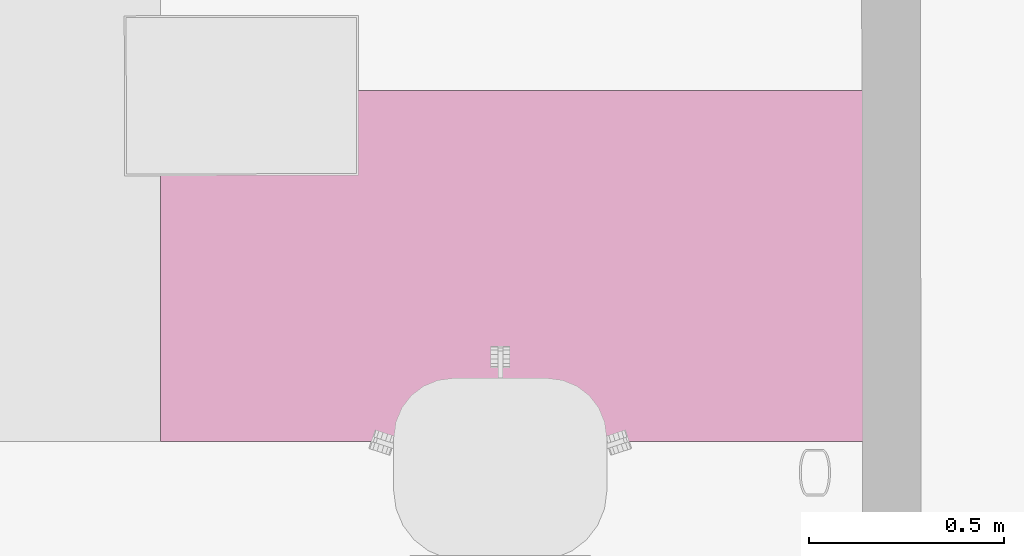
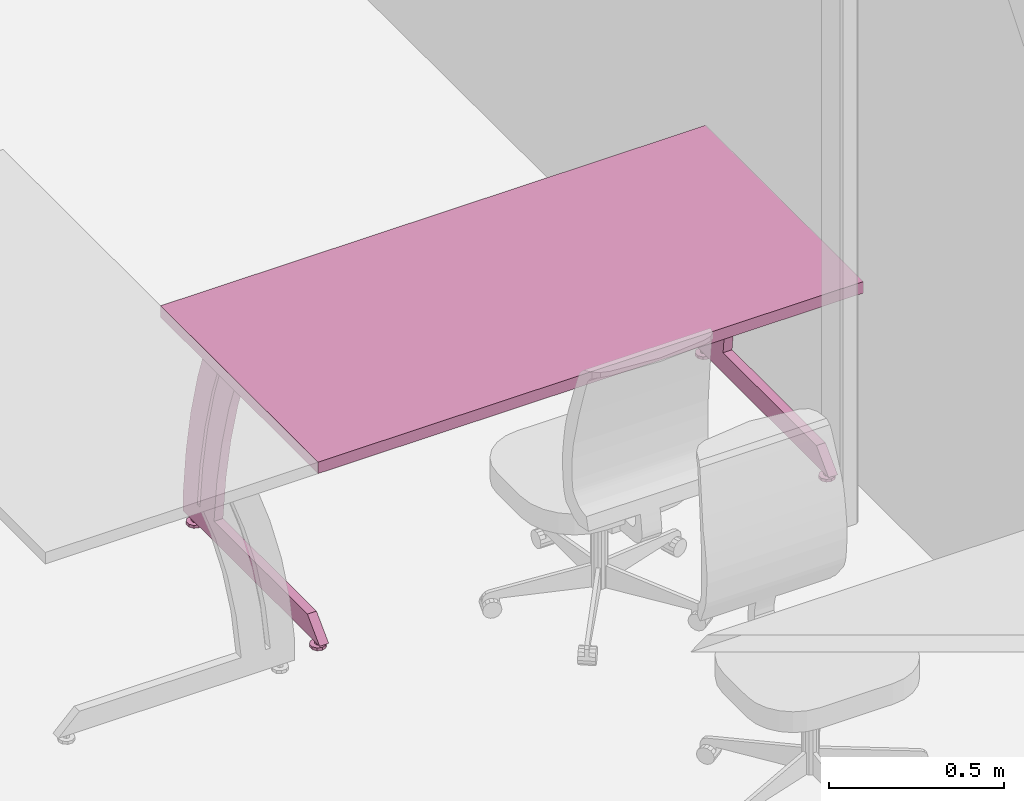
# One storey, part 117 of 128: 1 furnishing.
"""IFC2X3 building model written with IfcOpenShell, lengths in metres."""

import ifcopenshell
import ifcopenshell.guid

model = None  # the IFC model being written
_history = None  # IfcOwnerHistory: only IFC2X3 demands one
_inside = {}  # id of a spatial element -> (the spatial element, [elements in it])
_under = {}  # id of a project, library or spatial element -> (it, [spatial elements below it])
_declared = {}  # id of a project -> (the project, [libraries it declares])
_typed = {}  # id of a type object -> (the type object, [elements of that type])
_made_of = {}  # id of a material, layer set ... -> (it, [elements and type objects made of it])


def new_model(schema):
    """Start an empty IFC model of exactly this schema.

    Asked for "IFC4X3", IfcOpenShell would pick the latest addendum, in which some entities
    have other attributes; the version numbers below select the first issue.
    IFC2X3 requires an IfcOwnerHistory on every rooted entity: one is made here for all.
    """
    global model, _history
    if schema == "IFC4X3":
        model = ifcopenshell.file(schema_version=(4, 3, 0, 0))
    else:
        model = ifcopenshell.file(schema=schema)
    _inside.clear()
    _under.clear()
    _declared.clear()
    _typed.clear()
    _made_of.clear()
    _history = None
    if model.schema == "IFC2X3":
        org = make("IfcOrganization", Name="unknown")
        user = make(
            "IfcPersonAndOrganization",
            ThePerson=make("IfcPerson", FamilyName="unknown"),
            TheOrganization=org,
        )
        app = make(
            "IfcApplication",
            ApplicationDeveloper=org,
            Version="unknown",
            ApplicationFullName="unknown",
            ApplicationIdentifier="unknown",
        )
        _history = make(
            "IfcOwnerHistory",
            OwningUser=user,
            OwningApplication=app,
            ChangeAction="ADDED",
            CreationDate=0,
        )
    return model


def make(cls, **values):
    """One entity of the class cls with the attributes given. An attribute that is None is left unset."""
    return model.create_entity(
        cls, **{name: value for name, value in values.items() if value is not None}
    )


def entity(cls, *values):
    """Any entity or typed value of the class cls, its attributes in the order of the schema. None: left unset."""
    e = model.create_entity(cls)
    for i, value in enumerate(values):
        if value is not None:
            e[i] = value
    return e


def rooted(cls, **values):
    """An entity with a GlobalId (a new one), such as an element, a storey or a relation."""
    return make(cls, GlobalId=ifcopenshell.guid.new(), OwnerHistory=_history, **values)


def si_unit(unit_type, name, prefix=None):
    """IfcSIUnit, for example si_unit("LENGTHUNIT", "METRE", prefix="MILLI")."""
    return make("IfcSIUnit", UnitType=unit_type, Prefix=prefix, Name=name)


def converted_unit(unit_type, name, factor, base, dimensions=None, offset=None):
    """IfcConversionBasedUnit, such as the inch: factor (a typed value) times the base unit."""
    return make(
        "IfcConversionBasedUnit"
        if offset is None
        else "IfcConversionBasedUnitWithOffset",
        ConversionOffset=offset,
        Dimensions=None
        if dimensions is None
        else entity("IfcDimensionalExponents", *dimensions),
        UnitType=unit_type,
        Name=name,
        ConversionFactor=make(
            "IfcMeasureWithUnit", ValueComponent=factor, UnitComponent=base
        ),
    )


def derived_unit(unit_type, elements):
    """IfcDerivedUnit: a product of units, each with its exponent."""
    return make(
        "IfcDerivedUnit",
        Elements=[
            make("IfcDerivedUnitElement", Unit=unit, Exponent=power)
            for unit, power in elements
        ],
        UnitType=unit_type,
    )


def assignment(units):
    """IfcUnitAssignment: the units of a project."""
    return None if units is None else make("IfcUnitAssignment", Units=units)


def point(xyz):
    """IfcCartesianPoint."""
    return None if xyz is None else make("IfcCartesianPoint", Coordinates=xyz)


def direction(xyz):
    """IfcDirection."""
    return None if xyz is None else make("IfcDirection", DirectionRatios=xyz)


def frame(location, z_axis=None, x_axis=None):
    """IfcAxis2Placement3D, a coordinate frame: its origin and axes. An axis left out is left unset."""
    return make(
        "IfcAxis2Placement3D",
        Location=point(location),
        Axis=direction(z_axis),
        RefDirection=direction(x_axis),
    )


def origin():
    """The frame at (0, 0, 0) with its axes left unset."""
    return frame((0.0, 0.0, 0.0))


def place(relative_to, where):
    """IfcLocalPlacement: puts the frame where relative to a parent placement (None: the world)."""
    return make(
        "IfcLocalPlacement", PlacementRelTo=relative_to, RelativePlacement=where
    )


def context(
    kind, dimensions, precision=None, world=None, true_north=None, identifier=None
):
    """IfcGeometricRepresentationContext, for example the 3D "Model" context."""
    return make(
        "IfcGeometricRepresentationContext",
        ContextIdentifier=identifier,
        ContextType=kind,
        CoordinateSpaceDimension=dimensions,
        Precision=precision,
        WorldCoordinateSystem=world,
        TrueNorth=true_north,
    )


def subcontext(parent, identifier, kind, view, scale=None):
    """IfcGeometricRepresentationSubContext, for example "Body" below "Model"."""
    return make(
        "IfcGeometricRepresentationSubContext",
        ContextIdentifier=identifier,
        ContextType=kind,
        ParentContext=parent,
        TargetScale=scale,
        TargetView=view,
    )


def project(units=None, contexts=None):
    """IfcProject with its units and contexts."""
    return rooted(
        "IfcProject",
        Name="project",
        RepresentationContexts=contexts,
        UnitsInContext=assignment(units),
    )


def spatial(cls, under=None, at=None, **own):
    """A site, building, storey or space (cls), placed at a placement, below another one or the project."""
    s = rooted(cls, ObjectPlacement=at, **own)
    if under is not None:
        _under.setdefault(under.id(), (under, []))[1].append(s)
    return s


def faces_of(points, faces, orient=None, outer=None):
    """IfcFace entities. A face is a list of loops; a loop is a list of indices into points, from 0.

    orient and outer hold one flag for each loop. By default every Orientation is true, the
    first loop of a face is its IfcFaceOuterBound and the others are IfcFaceBound.
    """
    made = []
    for i, loops in enumerate(faces):
        bounds = []
        for j, loop in enumerate(loops):
            is_outer = j == 0 if outer is None else outer[i][j]
            bounds.append(
                make(
                    "IfcFaceOuterBound" if is_outer else "IfcFaceBound",
                    Bound=make("IfcPolyLoop", Polygon=[points[k] for k in loop]),
                    Orientation=True if orient is None else orient[i][j],
                )
            )
        made.append(make("IfcFace", Bounds=bounds))
    return made


def faceted_brep(points, faces, orient=None, outer=None, voids=None):
    """IfcFacetedBrep: a solid bounded by flat faces; with voids (closed shells), ...WithVoids."""
    shared = [point(p) for p in points]
    hull = make("IfcClosedShell", CfsFaces=faces_of(shared, faces, orient, outer))
    if voids is None:
        return make("IfcFacetedBrep", Outer=hull)
    return make(
        "IfcFacetedBrepWithVoids",
        Outer=hull,
        Voids=[
            make(cls, CfsFaces=faces_of(shared, fs, o, b)) for cls, fs, o, b in voids
        ],
    )


def shape(context_of_items, identifier, shape_type, items):
    """IfcShapeRepresentation: the items that make up one representation, for example the "Body"."""
    return make(
        "IfcShapeRepresentation",
        ContextOfItems=context_of_items,
        RepresentationIdentifier=identifier,
        RepresentationType=shape_type,
        Items=items,
    )


def source(mapping_origin, context_of_items, identifier, shape_type, items):
    """IfcRepresentationMap: a shape defined once, which mapped items show again and again."""
    return make(
        "IfcRepresentationMap",
        MappingOrigin=mapping_origin,
        MappedRepresentation=shape(context_of_items, identifier, shape_type, items),
    )


def transform(
    local_origin,
    x_axis=None,
    y_axis=None,
    z_axis=None,
    scale=None,
    scale2=None,
    scale3=None,
    uniform=True,
):
    """IfcCartesianTransformationOperator3D, or its non-uniform kind. x_axis, y_axis, z_axis: its Axis1, 2, 3."""
    if uniform:
        return make(
            "IfcCartesianTransformationOperator3D",
            Axis1=direction(x_axis),
            Axis2=direction(y_axis),
            LocalOrigin=point(local_origin),
            Scale=scale,
            Axis3=direction(z_axis),
        )
    return make(
        "IfcCartesianTransformationOperator3DnonUniform",
        Axis1=direction(x_axis),
        Axis2=direction(y_axis),
        LocalOrigin=point(local_origin),
        Scale=scale,
        Axis3=direction(z_axis),
        Scale2=scale2,
        Scale3=scale3,
    )


def mapped(mapping_source, mapping_target):
    """IfcMappedItem: shows the shape of a source again, moved by a transform."""
    return make(
        "IfcMappedItem", MappingSource=mapping_source, MappingTarget=mapping_target
    )


def material(Name=None, Category=None):
    """IfcMaterial."""
    return make("IfcMaterial", Name=Name, Category=Category)


def made_of(thing, what):
    """Note that an element or type object is made of a material, layer set ...; save() writes the relation."""
    if what is not None:
        _made_of.setdefault(what.id(), (what, []))[1].append(thing)
    return thing


def type_object(cls, material=None, **own):
    """A type object (cls), such as IfcWallType, which elements share."""
    return made_of(rooted(cls, **own), material)


def type_shapes(of_type, sources):
    """Give a type object the sources (RepresentationMaps) that its elements show as mapped items."""
    of_type.RepresentationMaps = sources


def element(
    cls,
    number,
    at=None,
    inside=None,
    cuts=None,
    type_object=None,
    material=None,
    context=None,
    identifier="Body",
    shape_type=None,
    held_by="IfcProductDefinitionShape",
    body=None,
    shapes=None,
    **own,
):
    """One element of the class cls, such as IfcWall. Its Tag is "e" and its number.

    at: its placement. inside: the storey or other place that contains it. cuts: it is an
    opening in that element (IfcRelVoidsElement). A single representation is given by context,
    identifier, shape_type and body (its items); several are given by shapes. held_by: the class
    of the entity that holds the representations. save() writes the other relations.
    """
    e = rooted(cls, Tag="e%d" % number, ObjectPlacement=at, **own)
    if body is not None:
        shapes = [shape(context, identifier, shape_type, body)]
    if shapes is not None:
        e.Representation = make(held_by, Representations=shapes)
    if inside is not None:
        _inside.setdefault(inside.id(), (inside, []))[1].append(e)
    if cuts is not None:
        rooted(
            "IfcRelVoidsElement", RelatingBuildingElement=cuts, RelatedOpeningElement=e
        )
    if type_object is not None:
        _typed.setdefault(type_object.id(), (type_object, []))[1].append(e)
    return made_of(e, material)


def aggregate(whole, parts):
    """IfcRelAggregates: a whole, such as a stair, and the parts it consists of."""
    return rooted("IfcRelAggregates", RelatingObject=whole, RelatedObjects=parts)


def save(model, path):
    """Write the relations noted so far, then the file.

    IfcRelAggregates (storeys below a building ...), IfcRelContainedInSpatialStructure (elements
    in a storey), IfcRelDefinesByType, IfcRelAssociatesMaterial and IfcRelDeclares: one each for
    every whole, place, type object, material and project.
    """
    for whole, parts in _under.values():
        aggregate(whole, parts)
    for where, things in _inside.values():
        rooted(
            "IfcRelContainedInSpatialStructure",
            RelatedElements=things,
            RelatingStructure=where,
        )
    for kind, things in _typed.values():
        rooted("IfcRelDefinesByType", RelatedObjects=things, RelatingType=kind)
    for what, things in _made_of.values():
        rooted("IfcRelAssociatesMaterial", RelatedObjects=things, RelatingMaterial=what)
    for by, libraries in _declared.values():
        rooted("IfcRelDeclares", RelatingContext=by, RelatedDefinitions=libraries)
    model.write(path)


model = new_model("IFC2X3")

# Units and contexts
model_context = context("Model", 3, precision=1e-05, world=origin(), true_north=direction((6.123031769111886e-17, 1.0)))
body_context = subcontext(model_context, "Body", "Model", "MODEL_VIEW")
ifc_project = project(units=[si_unit("LENGTHUNIT", "METRE"), si_unit("AREAUNIT", "SQUARE_METRE"), converted_unit("PLANEANGLEUNIT", "DEGREE", entity("IfcPlaneAngleMeasure", 0.017453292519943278), si_unit("PLANEANGLEUNIT", "RADIAN"), dimensions=[0, 0, 0, 0, 0, 0, 0]), derived_unit("THERMALTRANSMITTANCEUNIT", [(si_unit("MASSUNIT", "GRAM", prefix="KILO"), 1), (si_unit("THERMODYNAMICTEMPERATUREUNIT", "KELVIN"), -1), (si_unit("TIMEUNIT", "SECOND"), -3)])], contexts=[model_context])

# Site, building, storey
site_placement = place(None, origin())
site = spatial("IfcSite", under=ifc_project, at=site_placement, Name="Default", CompositionType="ELEMENT")
building_placement = place(site_placement, origin())
building = spatial("IfcBuilding", under=site, at=building_placement, CompositionType="ELEMENT")
storey_placement = place(building_placement, origin())
storey = spatial("IfcBuildingStorey", under=building, at=storey_placement, Name="00_RDC CAF", CompositionType="ELEMENT", Elevation=2.4982504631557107e-13)

# Furnishing
ifc_material = material(Name="ARC - Mo - Blanc")
furniture_type = type_object("IfcFurnitureType", Name="Mo_Bureau:Mo_Bureau_1800x900mm", AssemblyPlace="NOTDEFINED", material=ifc_material)
shared_shape = source(origin(), body_context, "Body", "Brep", [
    faceted_brep([(0.05999999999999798, -0.7962325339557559, 0.0), (0.03622358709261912, -0.7885071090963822, 0.0), (0.0407644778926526, -0.7822571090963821, 0.0), (0.045305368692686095, -0.7760071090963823, 0.0), (0.05265268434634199, -0.7736198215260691, 0.0), (0.05999999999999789, -0.7712325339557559, 0.0), (0.0673473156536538, -0.7736198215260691, 0.0), (0.03622358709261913, -0.7962325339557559, 0.0), (0.03622358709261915, -0.8039579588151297, 0.0), (0.040764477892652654, -0.8102079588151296, 0.0), (0.04530536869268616, -0.8164579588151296, 0.0), (0.052652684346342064, -0.8188452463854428, 0.0), (0.05999999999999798, -0.8212325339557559, 0.0), (0.07469463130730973, -0.7760071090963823, 0.0), (0.07923552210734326, -0.7822571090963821, 0.0), (0.08377641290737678, -0.7885071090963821, 0.0), (0.08377641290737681, -0.7962325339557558, 0.0), (0.06734731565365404, -0.8188452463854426, 0.0), (0.07469463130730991, -0.8164579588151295, 0.0), (0.0792355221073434, -0.8102079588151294, 0.0), (0.08377641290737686, -0.8039579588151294, 0.0), (0.05999999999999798, -0.7962325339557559, 0.024999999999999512), (0.059999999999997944, -0.7862325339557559, 0.024999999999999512), (0.05133974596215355, -0.791232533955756, 0.024999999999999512), (0.05133974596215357, -0.801232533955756, 0.024999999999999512), (0.05999999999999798, -0.8062325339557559, 0.024999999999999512), (0.06866025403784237, -0.7912325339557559, 0.024999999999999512), (0.06866025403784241, -0.8012325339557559, 0.024999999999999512), (0.05133974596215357, -0.801232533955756, 0.01000000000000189), (0.05999999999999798, -0.8062325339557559, 0.01000000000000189), (0.05133974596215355, -0.791232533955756, 0.01000000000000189), (0.05999999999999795, -0.7862325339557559, 0.01000000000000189), (0.06866025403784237, -0.7912325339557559, 0.01000000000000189), (0.06866025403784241, -0.8012325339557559, 0.01000000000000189), (0.0599999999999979, -0.7712325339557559, 0.01000000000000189), (0.05554606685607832, -0.77267970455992, 0.01000000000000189), (0.05109213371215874, -0.774126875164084, 0.01000000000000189), (0.045305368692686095, -0.7760071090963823, 0.01000000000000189), (0.0673473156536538, -0.7736198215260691, 0.01000000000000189), (0.07469463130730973, -0.7760071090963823, 0.01000000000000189), (0.07923552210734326, -0.7822571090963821, 0.01000000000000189), (0.08377641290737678, -0.7885071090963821, 0.01000000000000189), (0.08377641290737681, -0.7962325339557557, 0.01000000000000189), (0.08377641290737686, -0.8039579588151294, 0.01000000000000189), (0.0792355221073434, -0.8102079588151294, 0.01000000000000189), (0.07469463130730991, -0.8164579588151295, 0.01000000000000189), (0.0689078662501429, -0.8183381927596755, 0.01000000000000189), (0.06445393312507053, -0.8197853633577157, 0.01000000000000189), (0.05999999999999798, -0.8212325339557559, 0.01000000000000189), (0.052652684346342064, -0.8188452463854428, 0.01000000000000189), (0.04530536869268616, -0.8164579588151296, 0.01000000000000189), (0.03622358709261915, -0.8039579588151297, 0.01000000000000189), (0.040764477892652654, -0.8102079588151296, 0.01000000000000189), (0.04076447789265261, -0.7822571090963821, 0.01000000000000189), (0.03622358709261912, -0.7885071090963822, 0.01000000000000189), (0.03622358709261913, -0.7962325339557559, 0.01000000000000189)], [[[0, 1, 2]], [[0, 2, 3]], [[0, 3, 4]], [[0, 4, 5]], [[0, 5, 6]], [[0, 7, 1]], [[0, 8, 7]], [[0, 9, 8]], [[0, 10, 9]], [[0, 11, 10]], [[0, 12, 11]], [[0, 6, 13]], [[0, 13, 14]], [[0, 14, 15]], [[0, 15, 16]], [[0, 17, 12]], [[0, 18, 17]], [[0, 19, 18]], [[0, 20, 19]], [[0, 16, 20]], [[21, 22, 23]], [[23, 24, 21]], [[24, 25, 21]], [[21, 26, 22]], [[25, 27, 21]], [[26, 21, 27]], [[25, 24, 28, 29]], [[24, 23, 30, 28]], [[23, 22, 31, 30]], [[22, 26, 32, 31]], [[26, 27, 33, 32]], [[27, 25, 29, 33]], [[31, 34, 35]], [[31, 35, 36]], [[31, 36, 37]], [[31, 37, 30]], [[31, 38, 34]], [[31, 39, 38]], [[32, 39, 31]], [[32, 40, 39]], [[32, 41, 40]], [[32, 42, 41]], [[32, 43, 42]], [[32, 33, 43]], [[33, 44, 43]], [[33, 45, 44]], [[33, 29, 45]], [[29, 46, 45]], [[29, 47, 46]], [[29, 48, 47]], [[29, 49, 48]], [[29, 50, 49]], [[29, 28, 50]], [[30, 51, 28]], [[28, 51, 52]], [[28, 52, 50]], [[30, 37, 53]], [[30, 53, 54]], [[30, 54, 55]], [[30, 55, 51]], [[11, 12, 48, 49, 50, 10]], [[8, 9, 10, 50, 52, 51]], [[7, 8, 51, 55, 54, 1]], [[3, 37, 36, 35, 34, 5, 4]], [[54, 53, 37, 3, 2, 1]], [[6, 5, 34, 38, 39, 13]], [[15, 14, 13, 39, 40, 41]], [[16, 15, 41, 42, 43, 20]], [[18, 45, 46, 47, 48, 12, 17]], [[43, 44, 45, 18, 19, 20]]]),
    faceted_brep([(0.05999999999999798, -0.09132706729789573, 0.0), (0.03622358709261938, -0.0836016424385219, 0.0), (0.04076447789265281, -0.07735164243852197, 0.0), (0.04530536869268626, -0.07110164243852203, 0.0), (0.052652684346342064, -0.06871435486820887, 0.0), (0.05999999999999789, -0.06632706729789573, 0.0), (0.06734731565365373, -0.06871435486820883, 0.0), (0.03622358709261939, -0.0913270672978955, 0.0), (0.0362235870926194, -0.09905249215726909, 0.0), (0.04076447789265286, -0.10530249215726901, 0.0), (0.04530536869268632, -0.11155249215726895, 0.0), (0.05265268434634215, -0.11393977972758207, 0.0), (0.05999999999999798, -0.11632706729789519, 0.0), (0.07469463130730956, -0.07110164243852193, 0.0), (0.07923552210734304, -0.07735164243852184, 0.0), (0.08377641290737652, -0.08360164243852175, 0.0), (0.08377641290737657, -0.09132706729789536, 0.0), (0.06734731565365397, -0.113939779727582, 0.0), (0.07469463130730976, -0.11155249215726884, 0.0), (0.07923552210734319, -0.10530249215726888, 0.0), (0.0837764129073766, -0.09905249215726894, 0.0), (0.05999999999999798, -0.09132706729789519, 0.024999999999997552), (0.059999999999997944, -0.0813270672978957, 0.024999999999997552), (0.051339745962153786, -0.08632706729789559, 0.024999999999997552), (0.05133974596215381, -0.09632706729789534, 0.024999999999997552), (0.05999999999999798, -0.10132706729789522, 0.024999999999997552), (0.06866025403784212, -0.08632706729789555, 0.024999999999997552), (0.06866025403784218, -0.09632706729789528, 0.024999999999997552), (0.05133974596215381, -0.09632706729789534, 0.009999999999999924), (0.05999999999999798, -0.10132706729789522, 0.009999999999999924), (0.051339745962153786, -0.08632706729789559, 0.009999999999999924), (0.05999999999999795, -0.0813270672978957, 0.009999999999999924), (0.06866025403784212, -0.08632706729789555, 0.009999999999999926), (0.06866025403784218, -0.09632706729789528, 0.009999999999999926), (0.05999999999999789, -0.06632706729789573, 0.009999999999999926), (0.055546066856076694, -0.06777423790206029, 0.009999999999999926), (0.051092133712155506, -0.06922140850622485, 0.009999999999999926), (0.04530536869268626, -0.07110164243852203, 0.009999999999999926), (0.06734731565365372, -0.06871435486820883, 0.009999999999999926), (0.07469463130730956, -0.07110164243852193, 0.009999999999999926), (0.07923552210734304, -0.07735164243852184, 0.009999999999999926), (0.08377641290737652, -0.08360164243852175, 0.009999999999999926), (0.08377641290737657, -0.09132706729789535, 0.009999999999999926), (0.0837764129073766, -0.09905249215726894, 0.009999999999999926), (0.07923552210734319, -0.10530249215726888, 0.009999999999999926), (0.07469463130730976, -0.11155249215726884, 0.009999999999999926), (0.06890786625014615, -0.11343272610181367, 0.009999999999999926), (0.06445393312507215, -0.11487989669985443, 0.009999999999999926), (0.05999999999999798, -0.11632706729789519, 0.009999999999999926), (0.05265268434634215, -0.11393977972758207, 0.009999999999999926), (0.04530536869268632, -0.11155249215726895, 0.009999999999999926), (0.0362235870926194, -0.09905249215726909, 0.009999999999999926), (0.04076447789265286, -0.10530249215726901, 0.009999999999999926), (0.04076447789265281, -0.07735164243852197, 0.009999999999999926), (0.03622358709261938, -0.0836016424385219, 0.009999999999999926), (0.03622358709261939, -0.0913270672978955, 0.009999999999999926)], [[[0, 1, 2]], [[0, 2, 3]], [[0, 3, 4]], [[0, 4, 5]], [[0, 5, 6]], [[0, 7, 1]], [[0, 8, 7]], [[0, 9, 8]], [[0, 10, 9]], [[0, 11, 10]], [[0, 12, 11]], [[0, 6, 13]], [[0, 13, 14]], [[0, 14, 15]], [[0, 15, 16]], [[0, 17, 12]], [[0, 18, 17]], [[0, 19, 18]], [[0, 20, 19]], [[0, 16, 20]], [[21, 22, 23]], [[23, 24, 21]], [[24, 25, 21]], [[21, 26, 22]], [[25, 27, 21]], [[26, 21, 27]], [[25, 24, 28, 29]], [[24, 23, 30, 28]], [[23, 22, 31, 30]], [[22, 26, 32, 31]], [[26, 27, 33, 32]], [[27, 25, 29, 33]], [[31, 34, 35]], [[31, 35, 36]], [[31, 36, 37]], [[31, 37, 30]], [[31, 38, 34]], [[31, 39, 38]], [[32, 39, 31]], [[32, 40, 39]], [[32, 41, 40]], [[32, 42, 41]], [[32, 43, 42]], [[32, 33, 43]], [[33, 44, 43]], [[33, 45, 44]], [[33, 29, 45]], [[29, 46, 45]], [[29, 47, 46]], [[29, 48, 47]], [[29, 49, 48]], [[29, 50, 49]], [[29, 28, 50]], [[30, 51, 28]], [[28, 51, 52]], [[28, 52, 50]], [[30, 37, 53]], [[30, 53, 54]], [[30, 54, 55]], [[30, 55, 51]], [[11, 12, 48, 49, 50, 10]], [[8, 9, 10, 50, 52, 51]], [[7, 8, 51, 55, 54, 1]], [[3, 37, 36, 35, 34, 5, 4]], [[54, 53, 37, 3, 2, 1]], [[6, 5, 34, 38, 39, 13]], [[15, 14, 13, 39, 40, 41]], [[16, 15, 41, 42, 43, 20]], [[18, 45, 46, 47, 48, 12, 17]], [[43, 44, 45, 18, 19, 20]]]),
    faceted_brep([(0.04499999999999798, -0.22742160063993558, 0.0950000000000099), (0.04499999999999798, -0.24409269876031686, 0.24614112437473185), (0.04499999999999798, -0.27271442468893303, 0.3954808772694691), (0.04499999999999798, -0.3131059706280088, 0.5420758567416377), (0.04499999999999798, -0.3650121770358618, 0.6849999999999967), (0.04499999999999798, -0.2788721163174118, 0.6849999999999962), (0.04499999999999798, -0.2291924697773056, 0.5416912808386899), (0.04499999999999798, -0.1905543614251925, 0.39501969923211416), (0.04499999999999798, -0.16318154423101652, 0.245834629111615), (0.04499999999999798, -0.14723253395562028, 0.09500000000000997), (0.07499999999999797, -0.3650121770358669, 0.6850000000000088), (0.07499999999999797, -0.3131059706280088, 0.5420758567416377), (0.07499999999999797, -0.27271442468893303, 0.3954808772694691), (0.07499999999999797, -0.24409269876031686, 0.24614112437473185), (0.07499999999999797, -0.22742160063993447, 0.09499999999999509), (0.07499999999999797, -0.14723253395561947, 0.0949999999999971), (0.07499999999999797, -0.16318154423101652, 0.245834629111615), (0.07499999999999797, -0.1905543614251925, 0.39501969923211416), (0.07499999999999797, -0.2291924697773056, 0.5416912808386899), (0.07499999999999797, -0.27887211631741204, 0.6849999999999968)], [[[0, 1, 2, 3, 4, 5, 6, 7, 8, 9]], [[10, 11, 12, 13, 14, 15, 16, 17, 18, 19]], [[10, 19, 5, 4]], [[3, 11, 10, 4]], [[2, 12, 11, 3]], [[0, 14, 13, 1]], [[12, 2, 1, 13]], [[15, 14, 0, 9]], [[8, 7, 17, 16]], [[15, 9, 8, 16]], [[6, 5, 19, 18]], [[6, 18, 17, 7]]]),
    faceted_brep([(0.04499999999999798, -0.13142160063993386, 0.09500000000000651), (0.04499999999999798, -0.14809269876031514, 0.24614112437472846), (0.04499999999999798, -0.1767144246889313, 0.39548087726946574), (0.04499999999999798, -0.21710597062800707, 0.5420758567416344), (0.04499999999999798, -0.26901217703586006, 0.6849999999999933), (0.04499999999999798, -0.18287211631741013, 0.6849999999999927), (0.04499999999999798, -0.13319246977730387, 0.5416912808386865), (0.04499999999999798, -0.09455436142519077, 0.3950196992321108), (0.04499999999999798, -0.0671815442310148, 0.2458346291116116), (0.04499999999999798, -0.05123253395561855, 0.09500000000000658), (0.07499999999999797, -0.2690121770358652, 0.6850000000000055), (0.07499999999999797, -0.21710597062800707, 0.5420758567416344), (0.07499999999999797, -0.1767144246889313, 0.39548087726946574), (0.07499999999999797, -0.14809269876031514, 0.24614112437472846), (0.07499999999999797, -0.1314216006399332, 0.09499999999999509), (0.07499999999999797, -0.05123253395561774, 0.09499999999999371), (0.07499999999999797, -0.0671815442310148, 0.2458346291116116), (0.07499999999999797, -0.09455436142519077, 0.3950196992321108), (0.07499999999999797, -0.13319246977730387, 0.5416912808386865), (0.07499999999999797, -0.18287211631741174, 0.684999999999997)], [[[0, 1, 2, 3, 4, 5, 6, 7, 8, 9]], [[10, 11, 12, 13, 14, 15, 16, 17, 18, 19]], [[10, 19, 5, 4]], [[3, 11, 10, 4]], [[2, 12, 11, 3]], [[0, 14, 13, 1]], [[12, 2, 1, 13]], [[15, 14, 0, 9]], [[8, 7, 17, 16]], [[15, 9, 8, 16]], [[6, 5, 19, 18]], [[6, 18, 17, 7]]]),
    faceted_brep([(0.04499999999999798, -0.0512325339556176, 0.0249999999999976), (0.04499999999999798, -0.8312325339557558, 0.0249999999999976), (0.04499999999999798, -0.7612325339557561, 0.09499999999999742), (0.04499999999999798, -0.05123253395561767, 0.09499999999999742), (0.07499999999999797, -0.0512325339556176, 0.0249999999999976), (0.07499999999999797, -0.05123253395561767, 0.09499999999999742), (0.07499999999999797, -0.7612325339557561, 0.09499999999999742), (0.07499999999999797, -0.8312325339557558, 0.0249999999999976)], [[[0, 1, 2, 3]], [[4, 5, 6, 7]], [[5, 4, 0, 3]], [[6, 5, 3, 2]], [[4, 7, 1, 0]], [[7, 6, 2, 1]]]),
    faceted_brep([(1.7399999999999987, -0.7962325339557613, 0.0), (1.71622358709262, -0.7885071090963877, 0.0), (1.7207644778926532, -0.7822571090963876, 0.0), (1.7253053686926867, -0.7760071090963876, 0.0), (1.7326526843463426, -0.7736198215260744, 0.0), (1.7399999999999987, -0.7712325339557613, 0.0), (1.7473473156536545, -0.7736198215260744, 0.0), (1.71622358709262, -0.7962325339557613, 0.0), (1.71622358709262, -0.803957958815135, 0.0), (1.7207644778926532, -0.8102079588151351, 0.0), (1.725305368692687, -0.816457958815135, 0.0), (1.7326526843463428, -0.8188452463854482, 0.0), (1.7399999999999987, -0.8212325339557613, 0.0), (1.7546946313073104, -0.7760071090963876, 0.0), (1.759235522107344, -0.7822571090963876, 0.0), (1.7637764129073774, -0.7885071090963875, 0.0), (1.7637764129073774, -0.7962325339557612, 0.0), (1.7473473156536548, -0.8188452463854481, 0.0), (1.7546946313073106, -0.8164579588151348, 0.0), (1.759235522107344, -0.8102079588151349, 0.0), (1.7637764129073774, -0.8039579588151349, 0.0), (1.7399999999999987, -0.7962325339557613, 0.024999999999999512), (1.7399999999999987, -0.7862325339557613, 0.024999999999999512), (1.731339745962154, -0.7912325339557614, 0.024999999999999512), (1.731339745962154, -0.8012325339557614, 0.024999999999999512), (1.7399999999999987, -0.8062325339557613, 0.024999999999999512), (1.748660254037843, -0.7912325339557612, 0.024999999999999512), (1.748660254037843, -0.8012325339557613, 0.024999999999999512), (1.731339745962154, -0.8012325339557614, 0.01000000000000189), (1.7399999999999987, -0.8062325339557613, 0.01000000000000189), (1.731339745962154, -0.7912325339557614, 0.01000000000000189), (1.7399999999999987, -0.7862325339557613, 0.01000000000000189), (1.748660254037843, -0.7912325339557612, 0.01000000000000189), (1.748660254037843, -0.8012325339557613, 0.01000000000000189), (1.7399999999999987, -0.7712325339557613, 0.01000000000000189), (1.735546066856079, -0.7726797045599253, 0.01000000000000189), (1.7310921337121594, -0.7741268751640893, 0.01000000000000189), (1.7253053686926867, -0.7760071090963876, 0.01000000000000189), (1.7473473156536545, -0.7736198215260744, 0.01000000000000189), (1.7546946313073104, -0.7760071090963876, 0.01000000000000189), (1.759235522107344, -0.7822571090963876, 0.01000000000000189), (1.7637764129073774, -0.7885071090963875, 0.01000000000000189), (1.7637764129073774, -0.7962325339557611, 0.01000000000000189), (1.7637764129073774, -0.8039579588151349, 0.01000000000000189), (1.759235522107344, -0.8102079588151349, 0.01000000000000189), (1.7546946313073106, -0.8164579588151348, 0.01000000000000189), (1.7489078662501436, -0.8183381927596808, 0.01000000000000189), (1.744453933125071, -0.8197853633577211, 0.01000000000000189), (1.7399999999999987, -0.8212325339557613, 0.01000000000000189), (1.7326526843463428, -0.8188452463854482, 0.01000000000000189), (1.725305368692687, -0.816457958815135, 0.01000000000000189), (1.71622358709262, -0.803957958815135, 0.01000000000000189), (1.7207644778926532, -0.8102079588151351, 0.01000000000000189), (1.7207644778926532, -0.7822571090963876, 0.01000000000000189), (1.71622358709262, -0.7885071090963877, 0.01000000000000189), (1.71622358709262, -0.7962325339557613, 0.01000000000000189)], [[[0, 1, 2]], [[0, 2, 3]], [[0, 3, 4]], [[0, 4, 5]], [[0, 5, 6]], [[0, 7, 1]], [[0, 8, 7]], [[0, 9, 8]], [[0, 10, 9]], [[0, 11, 10]], [[0, 12, 11]], [[0, 6, 13]], [[0, 13, 14]], [[0, 14, 15]], [[0, 15, 16]], [[0, 17, 12]], [[0, 18, 17]], [[0, 19, 18]], [[0, 20, 19]], [[0, 16, 20]], [[21, 22, 23]], [[23, 24, 21]], [[24, 25, 21]], [[21, 26, 22]], [[25, 27, 21]], [[26, 21, 27]], [[25, 24, 28, 29]], [[24, 23, 30, 28]], [[23, 22, 31, 30]], [[22, 26, 32, 31]], [[26, 27, 33, 32]], [[27, 25, 29, 33]], [[31, 34, 35]], [[31, 35, 36]], [[31, 36, 37]], [[31, 37, 30]], [[31, 38, 34]], [[31, 39, 38]], [[32, 39, 31]], [[32, 40, 39]], [[32, 41, 40]], [[32, 42, 41]], [[32, 43, 42]], [[32, 33, 43]], [[33, 44, 43]], [[33, 45, 44]], [[33, 29, 45]], [[29, 46, 45]], [[29, 47, 46]], [[29, 48, 47]], [[29, 49, 48]], [[29, 50, 49]], [[29, 28, 50]], [[30, 51, 28]], [[28, 51, 52]], [[28, 52, 50]], [[30, 37, 53]], [[30, 53, 54]], [[30, 54, 55]], [[30, 55, 51]], [[11, 12, 48, 49, 50, 10]], [[8, 9, 10, 50, 52, 51]], [[7, 8, 51, 55, 54, 1]], [[3, 37, 36, 35, 34, 5, 4]], [[54, 53, 37, 3, 2, 1]], [[6, 5, 34, 38, 39, 13]], [[15, 14, 13, 39, 40, 41]], [[16, 15, 41, 42, 43, 20]], [[18, 45, 46, 47, 48, 12, 17]], [[43, 44, 45, 18, 19, 20]]]),
    faceted_brep([(1.7399999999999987, -0.09132706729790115, 0.0), (1.7162235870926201, -0.08360164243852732, 0.0), (1.7207644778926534, -0.07735164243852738, 0.0), (1.725305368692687, -0.07110164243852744, 0.0), (1.7326526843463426, -0.06871435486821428, 0.0), (1.7399999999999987, -0.06632706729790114, 0.0), (1.7473473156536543, -0.06871435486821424, 0.0), (1.7162235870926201, -0.09132706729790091, 0.0), (1.7162235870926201, -0.0990524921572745, 0.0), (1.7207644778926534, -0.10530249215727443, 0.0), (1.725305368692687, -0.11155249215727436, 0.0), (1.7326526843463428, -0.11393977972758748, 0.0), (1.7399999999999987, -0.1163270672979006, 0.0), (1.7546946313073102, -0.07110164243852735, 0.0), (1.7592355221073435, -0.07735164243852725, 0.0), (1.7637764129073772, -0.08360164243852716, 0.0), (1.7637764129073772, -0.09132706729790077, 0.0), (1.7473473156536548, -0.11393977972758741, 0.0), (1.7546946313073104, -0.11155249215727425, 0.0), (1.7592355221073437, -0.10530249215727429, 0.0), (1.7637764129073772, -0.09905249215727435, 0.0), (1.7399999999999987, -0.0913270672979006, 0.024999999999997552), (1.7399999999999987, -0.08132706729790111, 0.024999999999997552), (1.7313397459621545, -0.08632706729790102, 0.024999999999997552), (1.7313397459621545, -0.09632706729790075, 0.024999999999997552), (1.7399999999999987, -0.10132706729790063, 0.024999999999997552), (1.7486602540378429, -0.08632706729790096, 0.024999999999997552), (1.7486602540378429, -0.0963270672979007, 0.024999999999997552), (1.7313397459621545, -0.09632706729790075, 0.009999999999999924), (1.7399999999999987, -0.10132706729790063, 0.009999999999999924), (1.7313397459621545, -0.08632706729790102, 0.009999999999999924), (1.7399999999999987, -0.08132706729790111, 0.009999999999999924), (1.7486602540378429, -0.08632706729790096, 0.009999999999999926), (1.7486602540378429, -0.0963270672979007, 0.009999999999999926), (1.7399999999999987, -0.06632706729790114, 0.009999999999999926), (1.7355460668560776, -0.0677742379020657, 0.009999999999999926), (1.7310921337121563, -0.06922140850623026, 0.009999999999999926), (1.725305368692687, -0.07110164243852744, 0.009999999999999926), (1.7473473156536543, -0.06871435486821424, 0.009999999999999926), (1.7546946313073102, -0.07110164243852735, 0.009999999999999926), (1.7592355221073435, -0.07735164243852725, 0.009999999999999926), (1.7637764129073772, -0.08360164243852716, 0.009999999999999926), (1.7637764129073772, -0.09132706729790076, 0.009999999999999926), (1.7637764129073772, -0.09905249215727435, 0.009999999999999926), (1.7592355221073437, -0.10530249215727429, 0.009999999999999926), (1.7546946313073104, -0.11155249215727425, 0.009999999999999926), (1.7489078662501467, -0.11343272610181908, 0.009999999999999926), (1.7444539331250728, -0.11487989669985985, 0.009999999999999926), (1.7399999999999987, -0.1163270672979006, 0.009999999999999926), (1.7326526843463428, -0.11393977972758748, 0.009999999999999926), (1.725305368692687, -0.11155249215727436, 0.009999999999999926), (1.7162235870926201, -0.0990524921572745, 0.009999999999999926), (1.7207644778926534, -0.10530249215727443, 0.009999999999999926), (1.7207644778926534, -0.07735164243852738, 0.009999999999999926), (1.7162235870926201, -0.08360164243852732, 0.009999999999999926), (1.7162235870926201, -0.09132706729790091, 0.009999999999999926)], [[[0, 1, 2]], [[0, 2, 3]], [[0, 3, 4]], [[0, 4, 5]], [[0, 5, 6]], [[0, 7, 1]], [[0, 8, 7]], [[0, 9, 8]], [[0, 10, 9]], [[0, 11, 10]], [[0, 12, 11]], [[0, 6, 13]], [[0, 13, 14]], [[0, 14, 15]], [[0, 15, 16]], [[0, 17, 12]], [[0, 18, 17]], [[0, 19, 18]], [[0, 20, 19]], [[0, 16, 20]], [[21, 22, 23]], [[23, 24, 21]], [[24, 25, 21]], [[21, 26, 22]], [[25, 27, 21]], [[26, 21, 27]], [[25, 24, 28, 29]], [[24, 23, 30, 28]], [[23, 22, 31, 30]], [[22, 26, 32, 31]], [[26, 27, 33, 32]], [[27, 25, 29, 33]], [[31, 34, 35]], [[31, 35, 36]], [[31, 36, 37]], [[31, 37, 30]], [[31, 38, 34]], [[31, 39, 38]], [[32, 39, 31]], [[32, 40, 39]], [[32, 41, 40]], [[32, 42, 41]], [[32, 43, 42]], [[32, 33, 43]], [[33, 44, 43]], [[33, 45, 44]], [[33, 29, 45]], [[29, 46, 45]], [[29, 47, 46]], [[29, 48, 47]], [[29, 49, 48]], [[29, 50, 49]], [[29, 28, 50]], [[30, 51, 28]], [[28, 51, 52]], [[28, 52, 50]], [[30, 37, 53]], [[30, 53, 54]], [[30, 54, 55]], [[30, 55, 51]], [[11, 12, 48, 49, 50, 10]], [[8, 9, 10, 50, 52, 51]], [[7, 8, 51, 55, 54, 1]], [[3, 37, 36, 35, 34, 5, 4]], [[54, 53, 37, 3, 2, 1]], [[6, 5, 34, 38, 39, 13]], [[15, 14, 13, 39, 40, 41]], [[16, 15, 41, 42, 43, 20]], [[18, 45, 46, 47, 48, 12, 17]], [[43, 44, 45, 18, 19, 20]]]),
    faceted_brep([(1.7249999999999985, -0.22742160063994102, 0.0950000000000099), (1.7249999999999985, -0.24409269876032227, 0.24614112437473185), (1.7249999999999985, -0.2727144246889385, 0.3954808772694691), (1.7249999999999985, -0.3131059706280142, 0.5420758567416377), (1.7249999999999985, -0.3650121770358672, 0.6849999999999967), (1.7249999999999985, -0.27887211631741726, 0.6849999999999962), (1.7249999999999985, -0.229192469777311, 0.5416912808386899), (1.7249999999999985, -0.1905543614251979, 0.39501969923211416), (1.7249999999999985, -0.16318154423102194, 0.245834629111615), (1.7249999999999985, -0.1472325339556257, 0.09500000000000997), (1.7549999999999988, -0.36501217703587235, 0.6850000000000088), (1.7549999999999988, -0.3131059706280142, 0.5420758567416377), (1.7549999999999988, -0.2727144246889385, 0.3954808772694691), (1.7549999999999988, -0.24409269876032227, 0.24614112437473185), (1.7549999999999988, -0.22742160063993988, 0.09499999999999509), (1.7549999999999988, -0.14723253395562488, 0.0949999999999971), (1.7549999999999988, -0.16318154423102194, 0.245834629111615), (1.7549999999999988, -0.1905543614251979, 0.39501969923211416), (1.7549999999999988, -0.229192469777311, 0.5416912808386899), (1.7549999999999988, -0.2788721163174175, 0.6849999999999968)], [[[0, 1, 2, 3, 4, 5, 6, 7, 8, 9]], [[10, 11, 12, 13, 14, 15, 16, 17, 18, 19]], [[10, 19, 5, 4]], [[3, 11, 10, 4]], [[2, 12, 11, 3]], [[0, 14, 13, 1]], [[12, 2, 1, 13]], [[15, 14, 0, 9]], [[8, 7, 17, 16]], [[15, 9, 8, 16]], [[6, 5, 19, 18]], [[6, 18, 17, 7]]]),
    faceted_brep([(1.7249999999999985, -0.13142160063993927, 0.09500000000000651), (1.7249999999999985, -0.14809269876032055, 0.24614112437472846), (1.7249999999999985, -0.17671442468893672, 0.39548087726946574), (1.7249999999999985, -0.2171059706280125, 0.5420758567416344), (1.7249999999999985, -0.2690121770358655, 0.6849999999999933), (1.7249999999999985, -0.18287211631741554, 0.6849999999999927), (1.7249999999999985, -0.13319246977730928, 0.5416912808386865), (1.7249999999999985, -0.09455436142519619, 0.3950196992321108), (1.7249999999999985, -0.06718154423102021, 0.2458346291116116), (1.7249999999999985, -0.051232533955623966, 0.09500000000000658), (1.7549999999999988, -0.2690121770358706, 0.6850000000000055), (1.7549999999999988, -0.2171059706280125, 0.5420758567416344), (1.7549999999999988, -0.17671442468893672, 0.39548087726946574), (1.7549999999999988, -0.14809269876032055, 0.24614112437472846), (1.7549999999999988, -0.1314216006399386, 0.09499999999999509), (1.7549999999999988, -0.051232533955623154, 0.09499999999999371), (1.7549999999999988, -0.06718154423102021, 0.2458346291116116), (1.7549999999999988, -0.09455436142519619, 0.3950196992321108), (1.7549999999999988, -0.13319246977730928, 0.5416912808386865), (1.7549999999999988, -0.18287211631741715, 0.684999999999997)], [[[0, 1, 2, 3, 4, 5, 6, 7, 8, 9]], [[10, 11, 12, 13, 14, 15, 16, 17, 18, 19]], [[10, 19, 5, 4]], [[3, 11, 10, 4]], [[2, 12, 11, 3]], [[0, 14, 13, 1]], [[12, 2, 1, 13]], [[15, 14, 0, 9]], [[8, 7, 17, 16]], [[15, 9, 8, 16]], [[6, 5, 19, 18]], [[6, 18, 17, 7]]]),
    faceted_brep([(1.7249999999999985, -0.051232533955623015, 0.0249999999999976), (1.7249999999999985, -0.8312325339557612, 0.0249999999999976), (1.7249999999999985, -0.7612325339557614, 0.09499999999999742), (1.7249999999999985, -0.051232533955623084, 0.09499999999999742), (1.7549999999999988, -0.051232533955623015, 0.0249999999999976), (1.7549999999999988, -0.051232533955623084, 0.09499999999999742), (1.7549999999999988, -0.7612325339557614, 0.09499999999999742), (1.7549999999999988, -0.8312325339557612, 0.0249999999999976)], [[[0, 1, 2, 3]], [[4, 5, 6, 7]], [[5, 4, 0, 3]], [[6, 5, 3, 2]], [[4, 7, 1, 0]], [[7, 6, 2, 1]]]),
    faceted_brep([(0.0, -0.8999999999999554, 0.685), (0.0, 0.0, 0.685), (1.7999999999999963, 0.0, 0.6849999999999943), (1.7999999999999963, -0.8999999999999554, 0.6849999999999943), (0.0, -0.8999999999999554, 0.7250000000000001), (1.7999999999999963, -0.8999999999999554, 0.7249999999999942), (1.7999999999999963, 0.0, 0.7249999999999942), (0.0, 0.0, 0.7250000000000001)], [[[0, 1, 2, 3]], [[4, 5, 6, 7]], [[5, 4, 0, 3]], [[6, 5, 3, 2]], [[7, 6, 2, 1]], [[4, 7, 1, 0]]]),
])
type_shapes(furniture_type, [shared_shape])
furnishing_placement = place(storey_placement, frame((43.89174455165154, 134.66845327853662, 0.0)))
element("IfcFurnishingElement", 1, at=furnishing_placement, inside=storey, type_object=furniture_type, material=ifc_material, Name="Mo_Bureau:Mo_Bureau_1800x900mm", ObjectType="Mo_Bureau:Mo_Bureau_1800x900mm", context=body_context, shape_type="MappedRepresentation", body=[
    mapped(shared_shape, transform((0.0, 0.0, 0.0), scale=1.0)),
])

save(model, "model.ifc")
